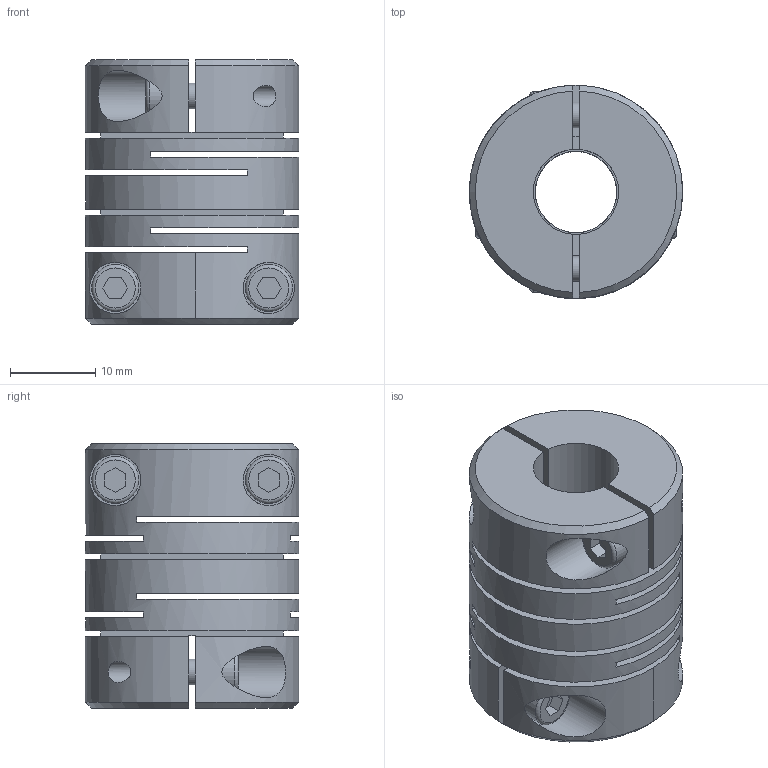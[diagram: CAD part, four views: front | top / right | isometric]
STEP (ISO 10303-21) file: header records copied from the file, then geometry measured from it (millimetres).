
FILE_DESCRIPTION (( 'STEP AP214' ), '1' );
FILE_NAME ('2246-25-B10-3_8-NI.step', '2022-05-27T09:31:06', ( '' ), ( '' ), 'SwSTEP 2.0', 'SolidWorks 2019', '' );
FILE_SCHEMA (( 'AUTOMOTIVE_DESIGN' ));
Length unit declared in the file: millimetre
Products named in the file (1): 2246-25-B10-3_8-NI
Bounding box: 25 x 24.99 x 31 mm (x, y, z)
Volume: 10755.6 mm3; surface area: 9207.1 mm2
Topology: 1 solids, 1 shells, 123 faces, 308 edges, 208 vertices
Faces by surface type: plane 79, cylinder 32, cone 8, torus 4
Full cylindrical faces by diameter (mm): 2.5 x4, 3 x4, 3.3 x4, 5.5 x4, 6 x4, 9.525 x3, 10 x3, 25 x1
Entity records: 4300 total; most frequent: CARTESIAN_POINT 975, DIRECTION 552, ORIENTED_EDGE 476, EDGE_CURVE 238, AXIS2_PLACEMENT_3D 207, EDGE_LOOP 200, VERTEX_POINT 178, FACE_OUTER_BOUND 153
